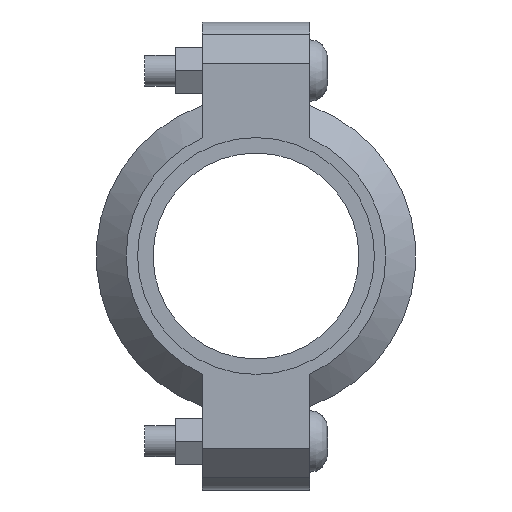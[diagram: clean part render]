
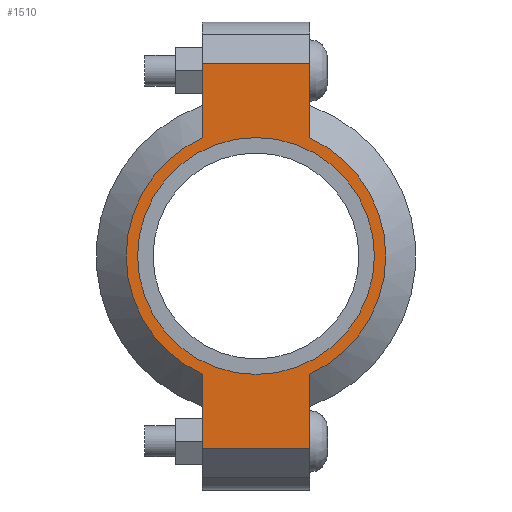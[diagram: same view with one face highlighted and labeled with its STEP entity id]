
A CAD part, left-side view. The second image highlights one B-rep face of the part: STEP entity #1510.
In plain terms, the highlighted planar face has unit normal (-1, 0, 0) as drawn and (0, 0, 1) by its records, which use the part's own axes.
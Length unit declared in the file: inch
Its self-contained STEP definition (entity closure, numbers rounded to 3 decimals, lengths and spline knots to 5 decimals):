
#134=LINE('',#2635,#227);
#142=LINE('',#2671,#235);
#149=LINE('',#2692,#242);
#158=LINE('',#2724,#251);
#159=LINE('',#2728,#252);
#160=LINE('',#2730,#253);
#227=VECTOR('',#2155,0.3937);
#235=VECTOR('',#2171,0.3937);
#242=VECTOR('',#2190,0.3937);
#251=VECTOR('',#2215,0.3937);
#252=VECTOR('',#2220,0.3937);
#253=VECTOR('',#2221,0.3937);
#309=FACE_BOUND('',#487,.T.);
#381=FACE_OUTER_BOUND('',#486,.T.);
#486=EDGE_LOOP('',(#1251,#1252,#1253,#1254,#1255,#1256,#1257,#1258));
#487=EDGE_LOOP('',(#1259));
#559=CIRCLE('',#1729,1.4375);
#585=CIRCLE('',#1788,1.575);
#586=CIRCLE('',#1789,1.575);
#651=VERTEX_POINT('',#2451);
#694=VERTEX_POINT('',#2632);
#695=VERTEX_POINT('',#2634);
#706=VERTEX_POINT('',#2666);
#707=VERTEX_POINT('',#2670);
#714=VERTEX_POINT('',#2689);
#715=VERTEX_POINT('',#2691);
#725=VERTEX_POINT('',#2727);
#726=VERTEX_POINT('',#2729);
#807=EDGE_CURVE('',#651,#651,#559,.T.);
#868=EDGE_CURVE('',#695,#694,#134,.T.);
#882=EDGE_CURVE('',#707,#706,#142,.T.);
#892=EDGE_CURVE('',#715,#714,#149,.T.);
#907=EDGE_CURVE('',#707,#694,#158,.T.);
#908=EDGE_CURVE('',#706,#715,#585,.T.);
#909=EDGE_CURVE('',#725,#714,#159,.T.);
#910=EDGE_CURVE('',#725,#726,#160,.T.);
#911=EDGE_CURVE('',#726,#695,#586,.T.);
#1251=ORIENTED_EDGE('',*,*,#907,.F.);
#1252=ORIENTED_EDGE('',*,*,#882,.T.);
#1253=ORIENTED_EDGE('',*,*,#908,.T.);
#1254=ORIENTED_EDGE('',*,*,#892,.T.);
#1255=ORIENTED_EDGE('',*,*,#909,.F.);
#1256=ORIENTED_EDGE('',*,*,#910,.T.);
#1257=ORIENTED_EDGE('',*,*,#911,.T.);
#1258=ORIENTED_EDGE('',*,*,#868,.T.);
#1259=ORIENTED_EDGE('',*,*,#807,.T.);
#1352=PLANE('',#1787);
#1510=ADVANCED_FACE('',(#381,#309),#1352,.T.);
#1729=AXIS2_PLACEMENT_3D('',#2453,#2031,#2032);
#1787=AXIS2_PLACEMENT_3D('',#2725,#2216,#2217);
#1788=AXIS2_PLACEMENT_3D('',#2726,#2218,#2219);
#1789=AXIS2_PLACEMENT_3D('',#2731,#2222,#2223);
#2031=DIRECTION('center_axis',(0.,0.,-1.));
#2032=DIRECTION('ref_axis',(-1.,0.,0.));
#2155=DIRECTION('',(-1.,0.,0.));
#2171=DIRECTION('',(1.,0.,0.));
#2190=DIRECTION('',(1.,0.,0.));
#2215=DIRECTION('',(0.,1.,0.));
#2216=DIRECTION('center_axis',(0.,0.,1.));
#2217=DIRECTION('ref_axis',(1.,0.,0.));
#2218=DIRECTION('center_axis',(0.,0.,1.));
#2219=DIRECTION('ref_axis',(-1.,0.,0.));
#2220=DIRECTION('',(0.,-1.,0.));
#2221=DIRECTION('',(-1.,0.,0.));
#2222=DIRECTION('center_axis',(0.,0.,1.));
#2223=DIRECTION('ref_axis',(-1.,0.,0.));
#2451=CARTESIAN_POINT('',(1.4375,0.,0.94));
#2453=CARTESIAN_POINT('Origin',(0.,0.,0.94));
#2632=CARTESIAN_POINT('',(-2.34,0.65,0.94));
#2634=CARTESIAN_POINT('',(-1.43462,0.65,0.94));
#2635=CARTESIAN_POINT('',(-2.84,0.65,0.94));
#2666=CARTESIAN_POINT('',(-1.43462,-0.65,0.94));
#2670=CARTESIAN_POINT('',(-2.34,-0.65,0.94));
#2671=CARTESIAN_POINT('',(2.84,-0.65,0.94));
#2689=CARTESIAN_POINT('',(2.34,-0.65,0.94));
#2691=CARTESIAN_POINT('',(1.43462,-0.65,0.94));
#2692=CARTESIAN_POINT('',(2.84,-0.65,0.94));
#2724=CARTESIAN_POINT('',(-2.34,0.325,0.94));
#2725=CARTESIAN_POINT('Origin',(0.,0.,
0.94));
#2726=CARTESIAN_POINT('Origin',(0.,0.,0.94));
#2727=CARTESIAN_POINT('',(2.34,0.65,0.94));
#2728=CARTESIAN_POINT('',(2.34,-0.325,0.94));
#2729=CARTESIAN_POINT('',(1.43462,0.65,0.94));
#2730=CARTESIAN_POINT('',(-2.84,0.65,0.94));
#2731=CARTESIAN_POINT('Origin',(0.,0.,0.94));
